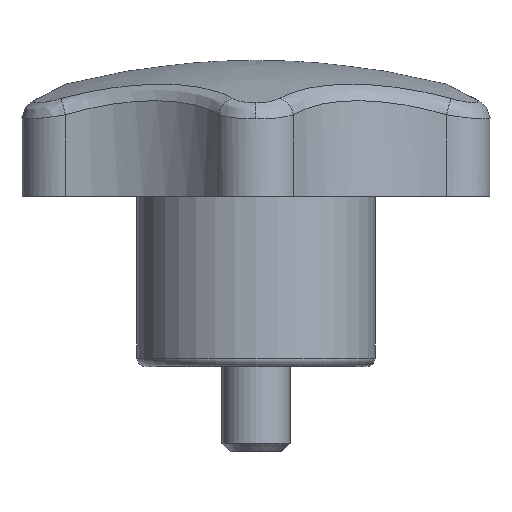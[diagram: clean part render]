
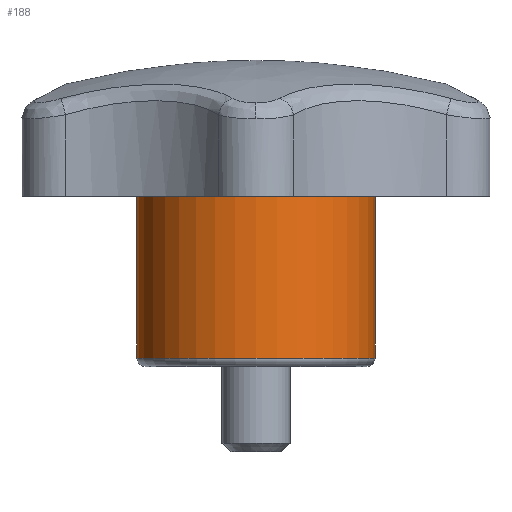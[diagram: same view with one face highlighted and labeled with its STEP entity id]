
A CAD part, left-side view. The second image highlights one B-rep face of the part: STEP entity #188.
In plain terms, the highlighted cylindrical face has radius 14 mm (diameter 28 mm), a full revolution.
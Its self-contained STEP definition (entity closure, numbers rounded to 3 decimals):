
#152=CARTESIAN_POINT('',(-14.,0.,20.));
#153=VERTEX_POINT('',#152);
#154=CARTESIAN_POINT('',(0.,0.,20.));
#155=DIRECTION('',(-1.,0.,0.));
#156=DIRECTION('',(0.,0.,1.));
#157=AXIS2_PLACEMENT_3D('',#154,#156,#155);
#158=CIRCLE('',#157,14.);
#159=EDGE_CURVE('',#153,#153,#158,.T.);
#164=CARTESIAN_POINT('',(0.,0.,20.));
#165=DIRECTION('',(-1.,0.,0.));
#166=DIRECTION('',(0.,0.,-1.));
#167=AXIS2_PLACEMENT_3D('',#164,#166,#165);
#168=CYLINDRICAL_SURFACE('',#167,14.);
#169=CARTESIAN_POINT('',(-14.,0.,1.));
#170=VERTEX_POINT('',#169);
#171=CARTESIAN_POINT('',(-14.,0.,20.));
#172=DIRECTION('',(0.,0.,-1.));
#173=VECTOR('',#172,19.);
#174=LINE('',#171,#173);
#175=EDGE_CURVE('',#153,#170,#174,.T.);
#176=ORIENTED_EDGE('E55',*,*,#175,.T.);
#177=CARTESIAN_POINT('',(0.,0.,1.));
#178=DIRECTION('',(-1.,0.,0.));
#179=DIRECTION('',(0.,0.,1.));
#180=AXIS2_PLACEMENT_3D('',#177,#179,#178);
#181=CIRCLE('',#180,14.);
#182=EDGE_CURVE('',#170,#170,#181,.T.);
#183=ORIENTED_EDGE('E84',*,*,#182,.T.);
#184=ORIENTED_EDGE('E84',*,*,#175,.F.);
#185=ORIENTED_EDGE('E84',*,*,#159,.F.);
#186=EDGE_LOOP('',(#176,#183,#184,#185));
#187=FACE_OUTER_BOUND('',#186,.T.);
#188=ADVANCED_FACE('F50',(#187),#168,.T.);
